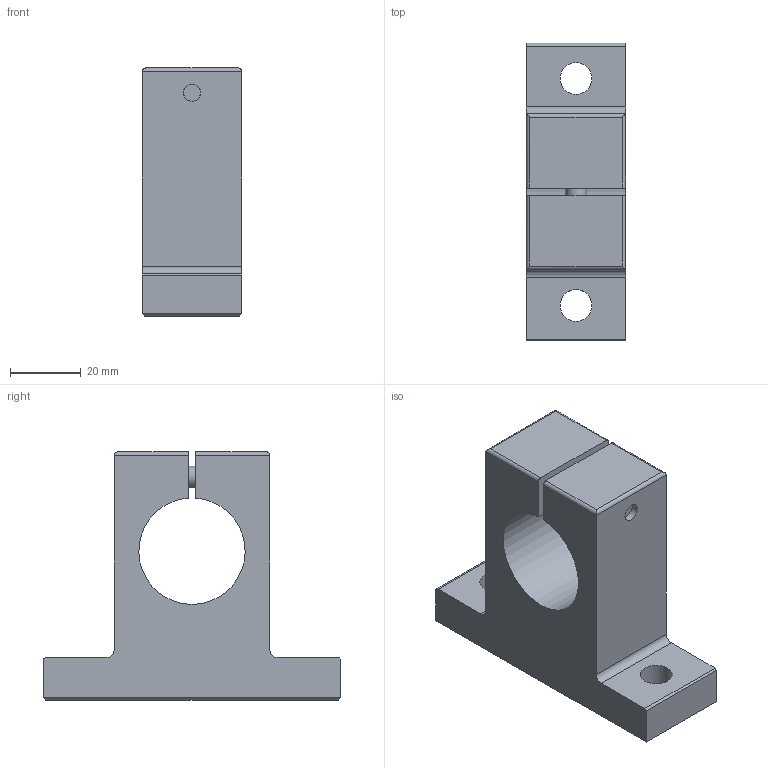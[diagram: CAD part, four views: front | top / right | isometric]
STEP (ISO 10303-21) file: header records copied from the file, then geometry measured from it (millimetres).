
FILE_DESCRIPTION((''),'2;1');
FILE_NAME('D:\製品 (図面)\カタログ用3D\シャフトブロック関連\STEP形式\SBA\SBA30.stp','2010-06-01T16:23:36',('Tsuchiya'),(''),'Autodesk Inventor 10','Autodesk Inventor 10','');
FILE_SCHEMA(('AUTOMOTIVE_DESIGN { 1 0 10303 214 1 1 1 1 }'));
Length unit declared in the file: millimetre
Products named in the file (1): SBA30
Bounding box: 28 x 84 x 70 mm (x, y, z)
Volume: 77249.3 mm3; surface area: 18792.3 mm2
Topology: 1 solids, 1 shells, 48 faces, 119 edges, 77 vertices
Faces by surface type: plane 27, cylinder 14, bspline 4, cone 2, torus 1
Full cylindrical faces by diameter (mm): 6 x1, 9 x2, 10 x1
Entity records: 1392 total; most frequent: CARTESIAN_POINT 291, DIRECTION 220, ORIENTED_EDGE 208, EDGE_CURVE 104, AXIS2_PLACEMENT_3D 77, VERTEX_POINT 72, EDGE_LOOP 68, VECTOR 66
